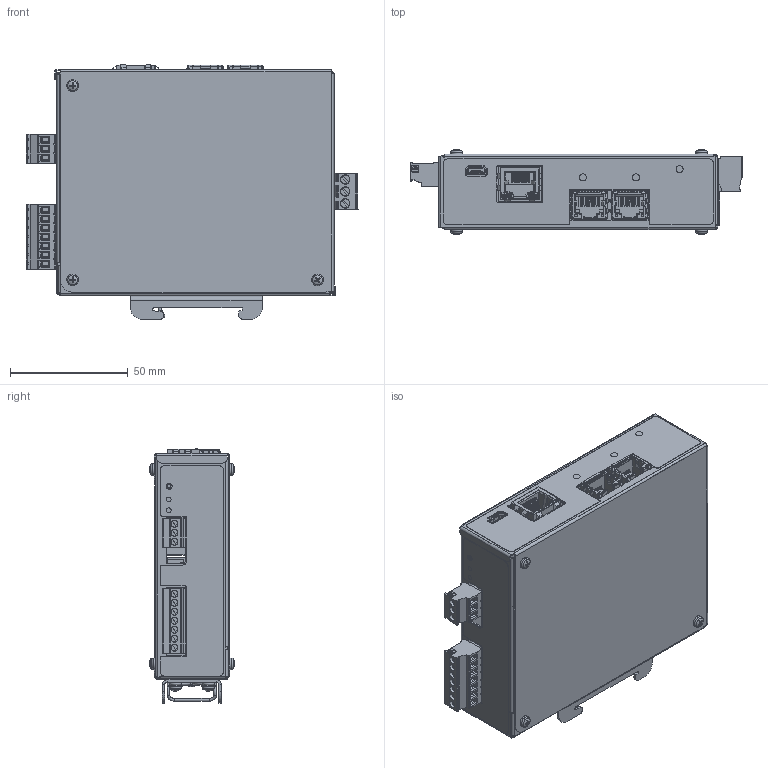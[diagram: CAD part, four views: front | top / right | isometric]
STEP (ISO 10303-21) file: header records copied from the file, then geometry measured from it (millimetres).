
FILE_DESCRIPTION(/* description */ (''),/* implementation_level */ '2;1');
FILE_NAME(/* name */ 'C:\Users\alves\OneDrive - ALFA INSTRUMENTOS ELETRONICOS LTDA\Área de Trabalho\ALVES\MARKETING\0629CX - TRANSMISSOR DE PESAGEM MOD. 2711-E.stp',/* time_stamp */ '2023-10-18T10:46:18-03:00',/* author */ ('alves'),/* organization */ (''),/* preprocessor_version */ 'ST-DEVELOPER v18.1',/* originating_system */ 'Autodesk Inventor 2022',/* authorisation */ '');
FILE_SCHEMA (('AUTOMOTIVE_DESIGN { 1 0 10303 214 3 1 1 }'));
Products named in the file (1): 0629CX - TRANSMISSOR DE PESAGEM MOD. 2711-E
Bounding box: 141.01 x 36.16 x 108.26 mm (x, y, z)
Volume: 8659.1 mm3; surface area: 93752.3 mm2
Topology: 6 solids, 801 shells, 4490 faces, 13864 edges, 10369 vertices
Faces by surface type: plane 2973, cylinder 904, bspline 333, cone 135, torus 98, sphere 47
Full cylindrical faces by diameter (mm): 0.434 x1, 0.457 x2, 0.6 x6, 0.609 x1, 0.8 x4, 1.2 x3, 1.4 x5, 1.5 x1, 1.6 x8, 2 x2, 2.256 x10, 2.5 x17, 2.7 x2, 2.8 x10, 2.9 x10, 3 x9, 3.013 x3, 3.2 x10, 3.783 x3, 4 x3, 6 x2
Entity records: 202871 total; most frequent: CARTESIAN_POINT 74964, DIRECTION 24847, ORIENTED_EDGE 23684, EDGE_CURVE 13826, VERTEX_POINT 10381, LINE 9701, VECTOR 9701, AXIS2_PLACEMENT_3D 7573
